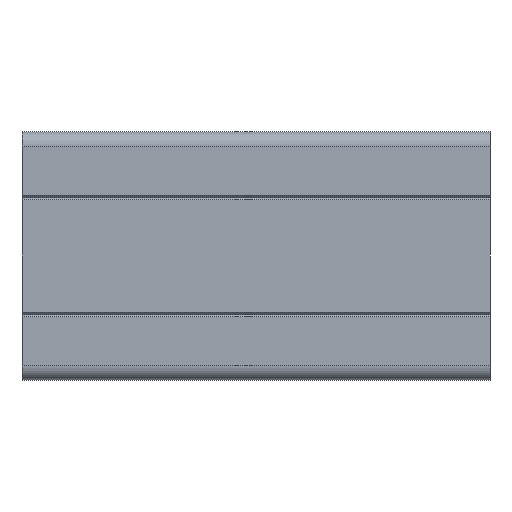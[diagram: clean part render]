
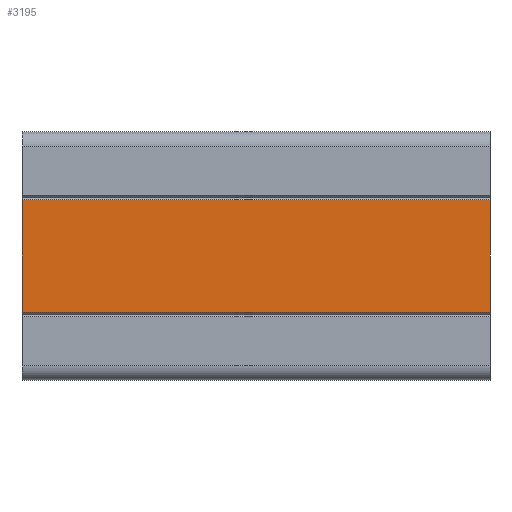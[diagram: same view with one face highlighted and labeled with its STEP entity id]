
A CAD part, front view. The second image highlights one B-rep face of the part: STEP entity #3195.
In plain terms, the highlighted planar face has unit normal (0, -1, 0).
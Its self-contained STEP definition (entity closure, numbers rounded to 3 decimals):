
#7 = CARTESIAN_POINT ( 'NONE',  ( 100., 0., -12. ) ) ;
#13 = DIRECTION ( 'NONE',  ( 0., 0., 1. ) ) ;
#61 = VERTEX_POINT ( 'NONE', #979 ) ;
#198 = DIRECTION ( 'NONE',  ( 0., 0., -1. ) ) ;
#234 = CARTESIAN_POINT ( 'NONE',  ( 100., 0., -12. ) ) ;
#323 = ORIENTED_EDGE ( 'NONE', *, *, #391, .F. ) ;
#391 = EDGE_CURVE ( 'NONE', #618, #2715, #2959, .T. ) ;
#618 = VERTEX_POINT ( 'NONE', #2798 ) ;
#789 = CARTESIAN_POINT ( 'NONE',  ( 100., 0., 12. ) ) ;
#905 = AXIS2_PLACEMENT_3D ( 'NONE', #1781, #1548, #13 ) ;
#974 = EDGE_LOOP ( 'NONE', ( #1570, #323, #2026, #2678 ) ) ;
#979 = CARTESIAN_POINT ( 'NONE',  ( 100., 0., 12. ) ) ;
#1046 = EDGE_CURVE ( 'NONE', #2559, #2715, #2379, .T. ) ;
#1164 = VECTOR ( 'NONE', #2755, 1000. ) ;
#1292 = CARTESIAN_POINT ( 'NONE',  ( 0., 0., -12. ) ) ;
#1426 = CARTESIAN_POINT ( 'NONE',  ( 0., 0., 12. ) ) ;
#1548 = DIRECTION ( 'NONE',  ( 0., 1., 0. ) ) ;
#1570 = ORIENTED_EDGE ( 'NONE', *, *, #1046, .T. ) ;
#1781 = CARTESIAN_POINT ( 'NONE',  ( 100., 0., -12. ) ) ;
#1786 = DIRECTION ( 'NONE',  ( 0., 0., -1. ) ) ;
#1908 = VECTOR ( 'NONE', #1786, 1000. ) ;
#1948 = EDGE_CURVE ( 'NONE', #61, #618, #3136, .T. ) ;
#1980 = FACE_OUTER_BOUND ( 'NONE', #974, .T. ) ;
#2016 = PLANE ( 'NONE',  #905 ) ;
#2026 = ORIENTED_EDGE ( 'NONE', *, *, #1948, .F. ) ;
#2233 = DIRECTION ( 'NONE',  ( -1., 0., 0. ) ) ;
#2304 = VECTOR ( 'NONE', #2233, 1000. ) ;
#2379 = LINE ( 'NONE', #2686, #2963 ) ;
#2546 = LINE ( 'NONE', #789, #1164 ) ;
#2559 = VERTEX_POINT ( 'NONE', #1426 ) ;
#2678 = ORIENTED_EDGE ( 'NONE', *, *, #3212, .T. ) ;
#2686 = CARTESIAN_POINT ( 'NONE',  ( 0., 0., -12. ) ) ;
#2715 = VERTEX_POINT ( 'NONE', #1292 ) ;
#2755 = DIRECTION ( 'NONE',  ( -1., 0., 0. ) ) ;
#2798 = CARTESIAN_POINT ( 'NONE',  ( 100., 0., -12. ) ) ;
#2959 = LINE ( 'NONE', #234, #2304 ) ;
#2963 = VECTOR ( 'NONE', #198, 1000. ) ;
#3136 = LINE ( 'NONE', #7, #1908 ) ;
#3195 = ADVANCED_FACE ( 'NONE', ( #1980 ), #2016, .F. ) ;
#3212 = EDGE_CURVE ( 'NONE', #61, #2559, #2546, .T. ) ;
